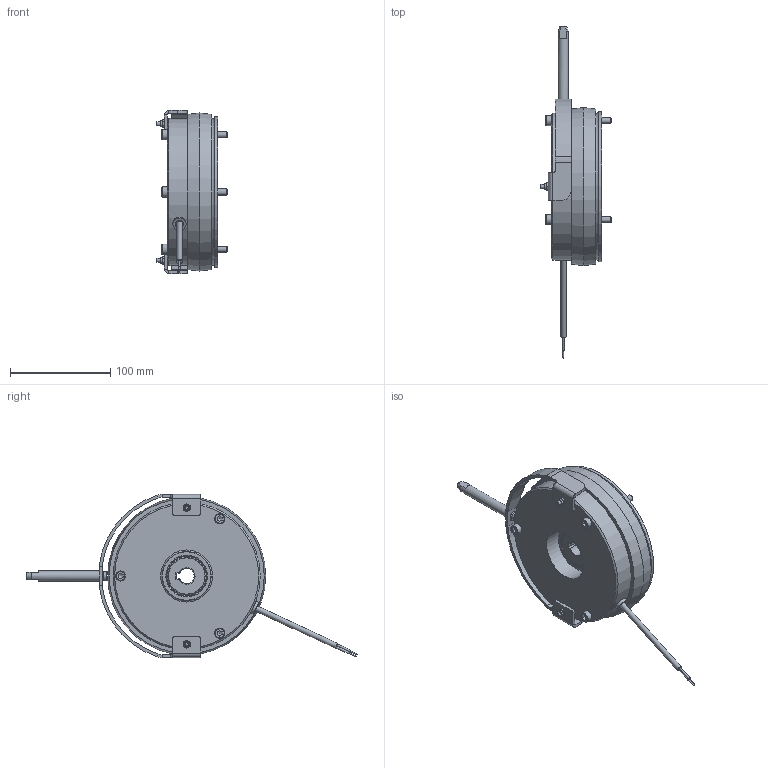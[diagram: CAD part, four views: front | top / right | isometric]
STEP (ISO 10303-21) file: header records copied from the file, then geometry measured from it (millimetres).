
FILE_DESCRIPTION(/* description */ (''),/* implementation_level */ '2;1');
FILE_NAME(/* name */ 'C:\SapWorkDir\Inventor\IP1\ConvertTempPath\5029495_IPT_000.ipt.stp',/* time_stamp */ '2021-04-21T08:54:16+02:00',/* author */ ('WOELK'),/* organization */ (''),/* preprocessor_version */ 'ST-DEVELOPER v17',/* originating_system */ 'Autodesk Inventor 2018',/* authorisation */ '');
FILE_SCHEMA (('AUTOMOTIVE_DESIGN { 1 0 10303 214 3 1 1 }'));
Products named in the file (1): 5029495
Bounding box: 70.9 x 331.65 x 163 mm (x, y, z)
Volume: 725411.8 mm3; surface area: 207190.9 mm2
Topology: 3 solids, 3 shells, 1805 faces, 5686 edges, 3764 vertices
Faces by surface type: cylinder 952, plane 455, torus 219, cone 118, bspline 61
Full cylindrical faces by diameter (mm): 1 x2, 1.85 x2, 4 x4, 4.917 x3, 5 x2, 5.3 x1, 5.5 x3, 5.9 x2, 6 x3, 6.03 x2, 6.15 x3, 6.5 x3, 6.6 x4, 8 x1, 8.917 x3, 10 x7, 10.4 x3, 12 x3, 13.2 x1, 43.45 x1, 52 x3, 69.5 x2, 115 x1, 147 x3, 150 x2
Entity records: 70662 total; most frequent: CARTESIAN_POINT 19170, ORIENTED_EDGE 11368, DIRECTION 9868, EDGE_CURVE 5684, AXIS2_PLACEMENT_3D 3824, VERTEX_POINT 3764, LINE 2220, VECTOR 2220
